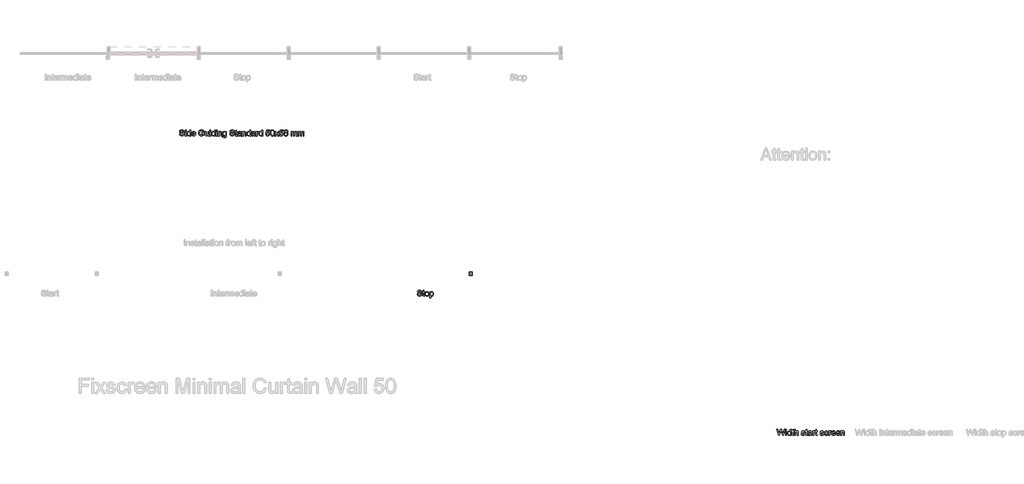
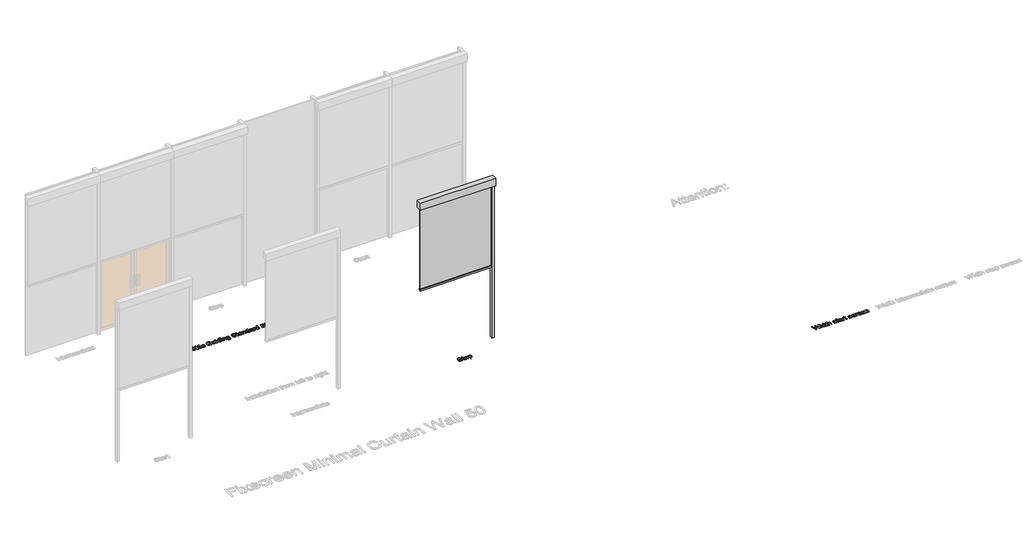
# One storey, part 4 of 8: 4 proxies.
"""IFC4 building model written with IfcOpenShell, lengths in millimetres."""

from ifc_helpers import new_model, si_unit, origin, origin_with_axes, place, context, project, spatial, polyline, outline, extrude, transform, mapped, element, save
from components import generic_models_59065b77

model = new_model("IFC4")

# Units and contexts
model_context = context("Model", 3, world=origin())
ifc_project = project(units=[si_unit("LENGTHUNIT", "METRE", prefix="MILLI")], contexts=[model_context])

# Site, building, storey
site = spatial("IfcSite", under=ifc_project)
building = spatial("IfcBuilding", under=site)
storey = spatial("IfcBuildingStorey", under=building, Name="Fixscreen Mini CW50 Overview Top", Elevation=0.0)

# Proxies
placement = place(None, origin())
generic_models_shape = generic_models_59065b77(model_context)
element("IfcBuildingElementProxy", 1, Name="Renson_Fixscreen_Minimal_CW50_End : For curtain wall - End element - Access downwards - Fabric close to the window", ObjectType="Renson_Fixscreen_Minimal_CW50_End : For curtain wall - End element - Access downwards - Fabric close to the window", at=placement, inside=storey, context=model_context, shape_type="MappedRepresentation", body=[
    mapped(generic_models_shape, transform((-885.8940169, -2499.9217625, 0.0), x_axis=(1.0, 0.0, 0.0), y_axis=(0.0, 1.0, 0.0), z_axis=(0.0, 0.0, 1.0))),
])
element("IfcBuildingElementProxy", 2, Name="100mm Arial", ObjectType="100mm Arial", at=placement, inside=storey, context=model_context, shape_type="SweptSolid", body=[
    extrude(outline(polyline([(-5228.2813123, -891.0386205), (-5215.7242735, -891.0386205), (-5211.6775716, -903.607922), (-5201.7938086, -911.5541731), (-5186.7351723, -914.5830682), (-5173.6140478, -912.2899371), (-5165.1404992, -905.9868923), (-5162.3568588, -897.5623946), (-5164.4415234, -889.7265081), (-5172.9763857, -884.0243372), (-5191.2601208, -879.2296085), (-5210.9418076, -873.0369282), (-5221.6226482, -863.6927256), (-5225.1420526, -851.2092632), (-5220.7887823, -836.9967554), (-5208.072328, -826.9658397), (-5189.4574991, -823.5445372), (-5169.5918713, -827.1252552), (-5156.3481195, -837.6466803), (-5151.3694498, -853.3675042), (-5163.9264886, -853.3675042), (-5166.2318824, -845.8749743), (-5171.0388738, -840.4671089), (-5188.9669897, -836.1015759), (-5206.9441566, -840.418058), (-5212.5850138, -850.8413812), (-5208.5873628, -859.5479217), (-5188.084073, -866.5622051), (-5165.8640004, -872.86525), (-5153.7116319, -883.0433185), (-5149.79982, -897.2435635), (-5154.3002431, -912.2654117), (-5167.2496893, -923.2282951), (-5186.244663, -927.140107), (-5208.673202, -922.9217268), (-5222.8611842, -910.2175352), (-5228.2813123, -891.0386205)])), origin_with_axes(), (0.0, 0.0, 1.0), 5.0),
    extrude(outline(polyline([(-5132.5338917, -925.5704771), (-5132.5338917, -851.7978744), (-5119.9768529, -851.7978744), (-5119.9768529, -925.5704771), (-5132.5338917, -925.5704771)])), origin_with_axes(), (0.0, 0.0, 1.0), 5.0),
    extrude(outline(polyline([(-5132.5338917, -837.6712058), (-5132.5338917, -825.114167), (-5119.9768529, -825.114167), (-5119.9768529, -837.6712058), (-5132.5338917, -837.6712058)])), origin_with_axes(), (0.0, 0.0, 1.0), 5.0),
    extrude(outline(polyline([(-5055.6220292, -925.5704771), (-5055.6220292, -913.7246769), (-5063.9300309, -923.7862495), (-5075.4140806, -927.140107), (-5090.9632262, -922.2840647), (-5101.9506352, -908.7337445), (-5105.8501843, -888.7577522), (-5102.2572035, -868.7694971), (-5091.4905238, -855.0107105), (-5075.4631315, -850.2282445), (-5063.8871114, -853.6495471), (-5055.6220292, -862.5400286), (-5055.6220292, -825.114167), (-5043.0649905, -825.114167), (-5043.0649905, -925.5704771), (-5055.6220292, -925.5704771)]), holes=[polyline([(-5093.2931455, -888.7087012), (-5091.8767998, -900.0670578), (-5087.6277628, -908.1451333), (-5081.4534767, -912.9735845), (-5074.2613836, -914.5830682), (-5067.0723563, -913.0471609), (-5061.05442, -908.4394389), (-5056.9801269, -900.6740631), (-5055.6220292, -889.6651944), (-5057.0046524, -877.6293218), (-5061.1525219, -869.2845319), (-5067.3237424, -864.4100955), (-5074.7764184, -862.7852833), (-5082.0420878, -864.3457161), (-5087.9956448, -869.0270145), (-5091.9687703, -877.0683018), (-5093.2931455, -888.7087012)])]), origin_with_axes(), (0.0, 0.0, 1.0), 5.0),
    extrude(outline(polyline([(-4972.5788002, -903.5956593), (-4960.2670161, -905.1652892), (-4964.7030598, -914.4420468), (-4971.7817225, -921.3766224), (-4981.3435887, -925.6992358), (-4993.2292428, -927.140107), (-5007.9629167, -924.6538378), (-5019.2998136, -917.1950304), (-5026.5286948, -905.2480626), (-5028.9383218, -889.2973124), (-5026.5041693, -872.8100677), (-5019.2017117, -860.4798895), (-5008.018099, -852.7911558), (-4993.9404814, -850.2282445), (-4980.3012564, -852.7850244), (-4969.4027523, -860.455364), (-4962.2566445, -872.7610167), (-4959.8746086, -889.223736), (-4959.948185, -892.6082504), (-5016.3812831, -892.6082504), (-5014.2077136, -902.0076354), (-5009.1585332, -908.9176855), (-5001.871404, -913.1667225), (-4992.9839882, -914.5830682), (-4980.6722041, -911.9588433), (-4972.5788002, -903.5956593)]), holes=[polyline([(-5016.3812831, -880.0512116), (-4972.4316474, -880.0512116), (-4977.459368, -868.6713952), (-4984.7802197, -864.2568113), (-4993.9895323, -862.7852833), (-5009.4528388, -867.4819101), (-5014.3180782, -872.9725489), (-5016.3812831, -880.0512116)])]), origin_with_axes(), (0.0, 0.0, 1.0), 5.0),
    extrude(outline(polyline([(-4859.4182985, -886.329731), (-4859.4182985, -873.7726922), (-4818.6079225, -873.7726922), (-4818.6079225, -911.3211812), (-4838.7555931, -923.1669814), (-4860.0559606, -927.140107), (-4874.1427753, -925.5612801), (-4886.874558, -920.8247994), (-4897.4511654, -913.0962118), (-4905.0724541, -902.5410643), (-4909.6801761, -889.8797923), (-4911.2160834, -875.8328314), (-4909.6863074, -861.684703), (-4905.0969795, -848.5237246), (-4897.6381721, -837.4841991), (-4887.4999574, -829.7004292), (-4875.1513851, -825.0835102), (-4861.0615047, -823.5445372), (-4841.4166062, -827.1129925), (-4827.6455568, -837.0458064), (-4820.054925, -853.6618098), (-4831.6309451, -856.9236968), (-4837.3576415, -845.3108885), (-4847.1433026, -838.6154362), (-4861.2577084, -836.1015759), (-4877.3341516, -838.81164), (-4888.2725096, -845.9240252), (-4894.73497, -855.5993217), (-4898.6590446, -875.3177966), (-4893.9378923, -897.2067753), (-4880.2036312, -910.3033744), (-4861.0615047, -914.5830682), (-4843.8814155, -911.3579694), (-4831.1649612, -904.4785761), (-4831.1649612, -886.329731), (-4859.4182985, -886.329731)])), origin_with_axes(), (0.0, 0.0, 1.0), 5.0),
    extrude(outline(polyline([(-4752.6834689, -925.5704771), (-4752.6834689, -912.890811), (-4762.5181809, -923.577783), (-4775.3449998, -927.140107), (-4787.1540119, -924.6385094), (-4795.2964667, -918.35999), (-4799.0366003, -909.1138892), (-4799.7723643, -897.4397673), (-4799.7723643, -851.7978744), (-4787.2153255, -851.7978744), (-4787.2153255, -891.5291299), (-4786.4550361, -904.3314233), (-4781.4886292, -911.8484787), (-4772.1321637, -914.5830682), (-4761.6475269, -911.7871651), (-4754.7190826, -904.1720078), (-4752.6834689, -890.1802292), (-4752.6834689, -851.7978744), (-4740.1264302, -851.7978744), (-4740.1264302, -925.5704771), (-4752.6834689, -925.5704771)])), origin_with_axes(), (0.0, 0.0, 1.0), 5.0),
    extrude(outline(polyline([(-4722.8605019, -837.6712058), (-4722.8605019, -825.114167), (-4710.3034631, -825.114167), (-4710.3034631, -837.6712058), (-4722.8605019, -837.6712058)])), origin_with_axes(), (0.0, 0.0, 1.0), 5.0),
    extrude(outline(polyline([(-4722.8605019, -925.5704771), (-4722.8605019, -851.7978744), (-4710.3034631, -851.7978744), (-4710.3034631, -925.5704771), (-4722.8605019, -925.5704771)])), origin_with_axes(), (0.0, 0.0, 1.0), 5.0),
    extrude(outline(polyline([(-4645.9486394, -925.5704771), (-4645.9486394, -913.7246769), (-4654.2566411, -923.7862495), (-4665.7406907, -927.140107), (-4681.2898364, -922.2840647), (-4692.2772453, -908.7337445), (-4696.1767945, -888.7577522), (-4692.5838137, -868.7694971), (-4681.8171339, -855.0107105), (-4665.7897417, -850.2282445), (-4654.2137216, -853.6495471), (-4645.9486394, -862.5400286), (-4645.9486394, -825.114167), (-4633.3916006, -825.114167), (-4633.3916006, -925.5704771), (-4645.9486394, -925.5704771)]), holes=[polyline([(-4683.6197557, -888.7087012), (-4682.20341, -900.0670578), (-4677.954373, -908.1451333), (-4671.7800868, -912.9735845), (-4664.5879938, -914.5830682), (-4657.3989665, -913.0471609), (-4651.3810302, -908.4394389), (-4647.3067371, -900.6740631), (-4645.9486394, -889.6651944), (-4647.3312626, -877.6293218), (-4651.4791321, -869.2845319), (-4657.6503525, -864.4100955), (-4665.1030286, -862.7852833), (-4672.368698, -864.3457161), (-4678.322255, -869.0270145), (-4682.2953805, -877.0683018), (-4683.6197557, -888.7087012)])]), origin_with_axes(), (0.0, 0.0, 1.0), 5.0),
    extrude(outline(polyline([(-4614.5560425, -925.5704771), (-4614.5560425, -851.7978744), (-4601.9990037, -851.7978744), (-4601.9990037, -925.5704771), (-4614.5560425, -925.5704771)])), origin_with_axes(), (0.0, 0.0, 1.0), 5.0),
    extrude(outline(polyline([(-4614.5560425, -837.6712058), (-4614.5560425, -825.114167), (-4601.9990037, -825.114167), (-4601.9990037, -837.6712058), (-4614.5560425, -837.6712058)])), origin_with_axes(), (0.0, 0.0, 1.0), 5.0),
    extrude(outline(polyline([(-4583.1634456, -925.5704771), (-4583.1634456, -851.7978744), (-4570.6064068, -851.7978744), (-4570.6064068, -862.0985702), (-4561.0046867, -853.195826), (-4547.8958249, -850.2282445), (-4536.037762, -852.6194775), (-4527.9443581, -858.8979969), (-4524.179699, -868.131835), (-4523.5175114, -880.2719408), (-4523.5175114, -925.5704771), (-4536.0745502, -925.5704771), (-4536.0745502, -881.964198), (-4537.5215527, -870.8541617), (-4542.6351124, -864.9803125), (-4551.2558138, -862.7852833), (-4564.8797104, -867.714902), (-4569.1747327, -874.8579441), (-4570.6064068, -886.4278329), (-4570.6064068, -925.5704771), (-4583.1634456, -925.5704771)])), origin_with_axes(), (0.0, 0.0, 1.0), 5.0),
    extrude(outline(polyline([(-4509.3908428, -931.8489965), (-4496.833804, -933.4186264), (-4492.7625766, -940.0405023), (-4480.5734198, -942.8364055), (-4467.7220755, -939.6726203), (-4461.5907089, -930.7944015), (-4460.7323176, -916.1526981), (-4469.5737482, -923.2160324), (-4480.3526906, -925.5704771), (-4493.2990712, -922.8297563), (-4502.9529079, -914.6075937), (-4508.9585814, -902.553327), (-4510.9604726, -888.3162938), (-4507.3674918, -868.8553362), (-4496.9686941, -855.0842869), (-4480.9658273, -850.2282445), (-4469.7638205, -852.9750968), (-4460.7323176, -861.2156535), (-4460.7323176, -851.7978744), (-4448.1752788, -851.7978744), (-4448.1752788, -915.4905105), (-4451.6088441, -939.8810868), (-4462.4858884, -951.2241149), (-4480.8186745, -955.3934442), (-4492.5019935, -953.9249819), (-4501.7021091, -949.519595), (-4507.6035494, -942.1650208), (-4509.3908428, -931.8489965)]), holes=[polyline([(-4498.4034339, -887.4579024), (-4497.0637303, -898.9756746), (-4493.0446195, -906.8943345), (-4487.0021577, -911.4836624), (-4479.5924012, -913.0134384), (-4472.237827, -911.4928595), (-4466.1647084, -906.9311227), (-4462.0904153, -899.1136303), (-4460.7323176, -887.8257844), (-4462.1302691, -876.9395431), (-4466.3241239, -869.1005909), (-4472.4861473, -864.3641102), (-4479.7886049, -862.7852833), (-4486.9592381, -864.3395847), (-4492.9710431, -869.002489), (-4497.0453362, -876.7249452), (-4498.4034339, -887.4579024)])]), origin_with_axes(), (0.0, 0.0, 1.0), 5.0),
    extrude(outline(polyline([(-4393.2382342, -891.0386205), (-4380.6811954, -891.0386205), (-4376.6344935, -903.607922), (-4366.7507305, -911.5541731), (-4351.6920942, -914.5830682), (-4338.5709697, -912.2899371), (-4330.0974211, -905.9868923), (-4327.3137806, -897.5623946), (-4329.3984453, -889.7265081), (-4337.9333076, -884.0243372), (-4356.2170427, -879.2296085), (-4375.8987295, -873.0369282), (-4386.5795701, -863.6927256), (-4390.0989745, -851.2092632), (-4385.7457042, -836.9967554), (-4373.0292499, -826.9658397), (-4354.414421, -823.5445372), (-4334.5487932, -827.1252552), (-4321.3050414, -837.6466803), (-4316.3263717, -853.3675042), (-4328.8834105, -853.3675042), (-4331.1888043, -845.8749743), (-4335.9957957, -840.4671089), (-4353.9239116, -836.1015759), (-4371.9010785, -840.418058), (-4377.5419357, -850.8413812), (-4373.5442847, -859.5479217), (-4353.0409948, -866.5622051), (-4330.8209223, -872.86525), (-4318.6685538, -883.0433185), (-4314.7567419, -897.2435635), (-4319.2571649, -912.2654117), (-4332.2066112, -923.2282951), (-4351.2015849, -927.140107), (-4373.6301238, -922.9217268), (-4387.8181061, -910.2175352), (-4393.2382342, -891.0386205)])), origin_with_axes(), (0.0, 0.0, 1.0), 5.0),
    extrude(outline(polyline([(-4270.8071062, -915.098103), (-4269.2374763, -925.9383591), (-4278.6307299, -927.140107), (-4289.152155, -925.0554424), (-4294.4006048, -919.5862634), (-4295.9211837, -905.3369674), (-4295.9211837, -864.3549132), (-4305.3389628, -864.3549132), (-4305.3389628, -851.7978744), (-4295.9211837, -851.7978744), (-4295.9211837, -833.8697585), (-4283.3641449, -826.4875931), (-4283.3641449, -851.7978744), (-4270.8071062, -851.7978744), (-4270.8071062, -864.3549132), (-4283.3641449, -864.3549132), (-4283.3641449, -904.9690854), (-4282.7019574, -911.4438085), (-4280.5559791, -913.7369396), (-4276.2762852, -914.5830682), (-4270.8071062, -915.098103)])), origin_with_axes(), (0.0, 0.0, 1.0), 5.0),
    extrude(outline(polyline([(-4211.161172, -916.1526981), (-4223.3380661, -924.6630349), (-4236.7902844, -927.140107), (-4247.2841183, -925.6501849), (-4255.0249686, -921.1804187), (-4259.7982375, -914.3929959), (-4261.3893271, -905.9501041), (-4258.9858314, -896.0172902), (-4252.6705238, -888.8068031), (-4243.8781441, -884.6865248), (-4233.0133625, -882.7980638), (-4211.2347484, -878.4815818), (-4211.161172, -875.6856786), (-4214.6192628, -866.4150523), (-4228.5006767, -862.7852833), (-4241.2048683, -865.2010417), (-4247.2626585, -873.7726922), (-4259.8196973, -872.2030624), (-4254.3873065, -859.9403292), (-4243.4489485, -852.7543676), (-4226.881996, -850.2282445), (-4211.6639441, -852.460062), (-4203.0677681, -858.064131), (-4199.2172699, -866.5867306), (-4198.6041333, -877.5741395), (-4198.6041333, -893.1968616), (-4197.9664711, -915.0122639), (-4195.4648736, -925.5704771), (-4208.0219123, -925.5704771), (-4211.161172, -916.1526981)]), holes=[polyline([(-4211.161172, -891.0386205), (-4231.4192072, -894.8891188), (-4242.2226752, -896.9247325), (-4247.1155057, -900.2356704), (-4248.8322883, -905.0671873), (-4245.0921547, -911.8607415), (-4234.1170085, -914.5830682), (-4221.412817, -911.5786986), (-4213.2213112, -904.3068978), (-4211.2347484, -894.5948132), (-4211.161172, -891.0386205)])]), origin_with_axes(), (0.0, 0.0, 1.0), 5.0),
    extrude(outline(polyline([(-4181.338205, -925.5704771), (-4181.338205, -851.7978744), (-4168.7811662, -851.7978744), (-4168.7811662, -862.0985702), (-4159.1794461, -853.195826), (-4146.0705843, -850.2282445), (-4134.2125214, -852.6194775), (-4126.1191175, -858.8979969), (-4122.3544584, -868.131835), (-4121.6922708, -880.2719408), (-4121.6922708, -925.5704771), (-4134.2493096, -925.5704771), (-4134.2493096, -881.964198), (-4135.6963121, -870.8541617), (-4140.8098718, -864.9803125), (-4149.4305732, -862.7852833), (-4163.0544698, -867.714902), (-4167.3494921, -874.8579441), (-4168.7811662, -886.4278329), (-4168.7811662, -925.5704771), (-4181.338205, -925.5704771)])), origin_with_axes(), (0.0, 0.0, 1.0), 5.0),
    extrude(outline(polyline([(-4058.907077, -925.5704771), (-4058.907077, -913.7246769), (-4067.2150787, -923.7862495), (-4078.6991283, -927.140107), (-4094.248274, -922.2840647), (-4105.2356829, -908.7337445), (-4109.135232, -888.7577522), (-4105.5422512, -868.7694971), (-4094.7755715, -855.0107105), (-4078.7481792, -850.2282445), (-4067.1721591, -853.6495471), (-4058.907077, -862.5400286), (-4058.907077, -825.114167), (-4046.3500382, -825.114167), (-4046.3500382, -925.5704771), (-4058.907077, -925.5704771)]), holes=[polyline([(-4096.5781933, -888.7087012), (-4095.1618476, -900.0670578), (-4090.9128105, -908.1451333), (-4084.7385244, -912.9735845), (-4077.5464314, -914.5830682), (-4070.3574041, -913.0471609), (-4064.3394678, -908.4394389), (-4060.2651747, -900.6740631), (-4058.907077, -889.6651944), (-4060.2897001, -877.6293218), (-4064.4375696, -869.2845319), (-4070.6087901, -864.4100955), (-4078.0614662, -862.7852833), (-4085.3271356, -864.3457161), (-4091.2806925, -869.0270145), (-4095.2538181, -877.0683018), (-4096.5781933, -888.7087012)])]), origin_with_axes(), (0.0, 0.0, 1.0), 5.0),
    extrude(outline(polyline([(-3980.4255847, -916.1526981), (-3992.6024787, -924.6630349), (-4006.054697, -927.140107), (-4016.5485309, -925.6501849), (-4024.2893812, -921.1804187), (-4029.0626501, -914.3929959), (-4030.6537397, -905.9501041), (-4028.250244, -896.0172902), (-4021.9349364, -888.8068031), (-4013.1425568, -884.6865248), (-4002.2777752, -882.7980638), (-3980.4991611, -878.4815818), (-3980.4255847, -875.6856786), (-3983.8836754, -866.4150523), (-3997.7650894, -862.7852833), (-4010.4692809, -865.2010417), (-4016.5270711, -873.7726922), (-4029.0841099, -872.2030624), (-4023.6517191, -859.9403292), (-4012.7133611, -852.7543676), (-3996.1464086, -850.2282445), (-3980.9283567, -852.460062), (-3972.3321808, -858.064131), (-3968.4816825, -866.5867306), (-3967.8685459, -877.5741395), (-3967.8685459, -893.1968616), (-3967.2308838, -915.0122639), (-3964.7292862, -925.5704771), (-3977.286325, -925.5704771), (-3980.4255847, -916.1526981)]), holes=[polyline([(-3980.4255847, -891.0386205), (-4000.6836199, -894.8891188), (-4011.4870878, -896.9247325), (-4016.3799183, -900.2356704), (-4018.096701, -905.0671873), (-4014.3565673, -911.8607415), (-4003.3814212, -914.5830682), (-3990.6772296, -911.5786986), (-3982.4857238, -904.3068978), (-3980.4991611, -894.5948132), (-3980.4255847, -891.0386205)])]), origin_with_axes(), (0.0, 0.0, 1.0), 5.0),
    extrude(outline(polyline([(-3950.6026176, -925.5704771), (-3950.6026176, -851.7978744), (-3939.6152087, -851.7978744), (-3939.6152087, -862.7117069), (-3931.8161104, -852.6562657), (-3923.9679611, -850.2282445), (-3911.3618714, -854.1032682), (-3915.5557262, -865.3604573), (-3924.3848941, -862.7852833), (-3931.4850166, -865.2623554), (-3936.0099651, -872.129486), (-3938.0455788, -886.7957149), (-3938.0455788, -925.5704771), (-3950.6026176, -925.5704771)])), origin_with_axes(), (0.0, 0.0, 1.0), 5.0),
    extrude(outline(polyline([(-3857.9944567, -925.5704771), (-3857.9944567, -913.7246769), (-3866.3024584, -923.7862495), (-3877.786508, -927.140107), (-3893.3356537, -922.2840647), (-3904.3230626, -908.7337445), (-3908.2226117, -888.7577522), (-3904.6296309, -868.7694971), (-3893.8629512, -855.0107105), (-3877.8355589, -850.2282445), (-3866.2595388, -853.6495471), (-3857.9944567, -862.5400286), (-3857.9944567, -825.114167), (-3845.4374179, -825.114167), (-3845.4374179, -925.5704771), (-3857.9944567, -925.5704771)]), holes=[polyline([(-3895.665573, -888.7087012), (-3894.2492273, -900.0670578), (-3890.0001902, -908.1451333), (-3883.8259041, -912.9735845), (-3876.6338111, -914.5830682), (-3869.4447838, -913.0471609), (-3863.4268475, -908.4394389), (-3859.3525544, -900.6740631), (-3857.9944567, -889.6651944), (-3859.3770798, -877.6293218), (-3863.5249493, -869.2845319), (-3869.6961698, -864.4100955), (-3877.1488459, -862.7852833), (-3884.4145153, -864.3457161), (-3890.3680722, -869.0270145), (-3894.3411978, -877.0683018), (-3895.665573, -888.7087012)])]), origin_with_axes(), (0.0, 0.0, 1.0), 5.0),
    extrude(outline(polyline([(-3790.5003733, -898.8867698), (-3777.9433345, -897.3171399), (-3771.6157642, -910.2543234), (-3758.4946397, -914.5830682), (-3749.4937935, -913.0778177), (-3742.7492903, -908.5620662), (-3738.5370415, -901.5569799), (-3737.1329585, -892.5837249), (-3742.393671, -877.6722414), (-3749.0002185, -873.5703571), (-3758.298436, -872.2030624), (-3769.3226331, -874.3858289), (-3776.3737047, -880.0512116), (-3788.9307434, -878.4815818), (-3777.9433345, -826.6837968), (-3729.2848093, -826.6837968), (-3729.2848093, -839.2408356), (-3767.7897914, -839.2408356), (-3773.1608686, -866.9055617), (-3764.1906793, -861.4609081), (-3754.7912943, -859.6460236), (-3743.0589243, -861.8962352), (-3733.3192485, -868.6468698), (-3726.7617519, -878.9353029), (-3724.5759197, -891.79891), (-3726.5440884, -904.3559488), (-3732.4485944, -915.098103), (-3743.7548344, -924.129606), (-3758.5436906, -927.140107), (-3770.8769345, -925.2056608), (-3780.7024495, -919.4023224), (-3787.4377557, -910.4045419), (-3790.5003733, -898.8867698)])), origin_with_axes(), (0.0, 0.0, 1.0), 5.0),
    extrude(outline(polyline([(-3713.5885108, -876.1516625), (-3709.8974281, -847.2484004), (-3698.9345447, -830.583346), (-3680.6262841, -825.114167), (-3665.9600552, -828.3515286), (-3655.8310376, -837.6834685), (-3649.9449257, -852.5459011), (-3647.6640573, -876.1516625), (-3651.3183518, -904.9322972), (-3662.244447, -921.6341398), (-3670.4758067, -925.7636152), (-3680.6262841, -927.140107), (-3693.6738321, -924.748874), (-3703.5821206, -917.5751751), (-3711.0869133, -900.5851583), (-3713.5885108, -876.1516625)]), holes=[polyline([(-3701.0314721, -876.127137), (-3699.5599441, -895.8793345), (-3695.1453601, -907.3112675), (-3688.5725351, -912.765118), (-3680.6262841, -914.5830682), (-3672.680033, -912.7589867), (-3666.107208, -907.286742), (-3661.692624, -895.8486776), (-3660.2210961, -876.127137), (-3661.6435731, -856.8194636), (-3665.9110042, -845.2986258), (-3672.4715665, -839.5780608), (-3680.7734368, -837.6712058), (-3688.6338488, -839.3512002), (-3694.9491564, -844.3911835), (-3699.5108931, -856.6293913), (-3701.0314721, -876.127137)])]), origin_with_axes(), (0.0, 0.0, 1.0), 5.0),
    extrude(outline(polyline([(-3641.3855379, -925.5704771), (-3614.5546777, -888.487972), (-3639.8159081, -851.7978744), (-3624.7082208, -851.7978744), (-3612.519064, -869.4562102), (-3606.8291558, -877.7948687), (-3601.8995371, -870.9767891), (-3588.0181231, -851.7978744), (-3572.9104359, -851.7978744), (-3599.4469904, -888.487972), (-3573.8914545, -925.5704771), (-3588.9991418, -925.5704771), (-3604.3766092, -903.2768282), (-3607.1970378, -899.2056008), (-3626.2778506, -925.5704771), (-3641.3855379, -925.5704771)])), origin_with_axes(), (0.0, 0.0, 1.0), 5.0),
    extrude(outline(polyline([(-3566.0433053, -898.8867698), (-3553.4862665, -897.3171399), (-3547.1586962, -910.2543234), (-3534.0375717, -914.5830682), (-3525.0367256, -913.0778177), (-3518.2922223, -908.5620662), (-3514.0799735, -901.5569799), (-3512.6758905, -892.5837249), (-3517.9366031, -877.6722414), (-3524.5431505, -873.5703571), (-3533.841368, -872.2030624), (-3544.8655651, -874.3858289), (-3551.9166367, -880.0512116), (-3564.4736754, -878.4815818), (-3553.4862665, -826.6837968), (-3504.8277413, -826.6837968), (-3504.8277413, -839.2408356), (-3543.3327235, -839.2408356), (-3548.7038006, -866.9055617), (-3539.7336113, -861.4609081), (-3530.3342263, -859.6460236), (-3518.6018563, -861.8962352), (-3508.8621805, -868.6468698), (-3502.3046839, -878.9353029), (-3500.1188518, -891.79891), (-3502.0870204, -904.3559488), (-3507.9915264, -915.098103), (-3519.2977664, -924.129606), (-3534.0866226, -927.140107), (-3546.4198665, -925.2056608), (-3556.2453815, -919.4023224), (-3562.9806877, -910.4045419), (-3566.0433053, -898.8867698)])), origin_with_axes(), (0.0, 0.0, 1.0), 5.0),
    extrude(outline(polyline([(-3470.8354449, -870.2410251), (-3482.276575, -862.4419268), (-3485.9921831, -850.3018209), (-3483.9688322, -840.485503), (-3477.8987792, -832.373705), (-3468.4626061, -826.9290515), (-3456.3408943, -825.114167), (-3444.1456062, -826.9719711), (-3434.5868057, -832.5453833), (-3428.4063882, -840.78594), (-3426.346249, -850.6451775), (-3430.0128062, -862.478715), (-3441.1351052, -870.2410251), (-3427.7809888, -880.0879998), (-3423.2069893, -896.3361213), (-3425.4755949, -908.341337), (-3432.2814118, -918.2618882), (-3442.7905742, -924.9205523), (-3456.1692161, -927.140107), (-3469.547858, -924.9113552), (-3480.0570203, -918.2251), (-3486.8628372, -908.2095127), (-3489.1314428, -895.9927647), (-3484.3735024, -879.3644986), (-3470.8354449, -870.2410251)]), holes=[polyline([(-3473.4351444, -850.6697029), (-3468.9837722, -860.5289404), (-3456.0220633, -864.3549132), (-3443.3178717, -860.5534659), (-3438.9032878, -851.2337887), (-3443.4650245, -841.5830177), (-3456.1692161, -837.6712058), (-3468.9101958, -841.4971785), (-3473.4351444, -850.6697029)]), polyline([(-3476.5744041, -895.5513063), (-3474.4774767, -905.0058736), (-3467.0585231, -912.0814707), (-3456.0711142, -914.5830682), (-3447.5239892, -913.2678901), (-3441.1105797, -909.3223557), (-3435.7640281, -895.9437138), (-3441.282258, -882.3075545), (-3447.8428202, -878.2608526), (-3456.4880471, -876.9119519), (-3464.9156105, -878.2424585), (-3471.2646406, -882.2339781), (-3476.5744041, -895.5513063)])]), origin_with_axes(), (0.0, 0.0, 1.0), 5.0),
    extrude(outline(polyline([(-3369.8395745, -925.5704771), (-3369.8395745, -851.7978744), (-3357.2825358, -851.7978744), (-3357.2825358, -863.9379802), (-3348.6495716, -853.9929036), (-3336.362313, -850.2282445), (-3323.7807487, -854.06648), (-3316.8645672, -864.820897), (-3307.0666434, -853.8764077), (-3294.6935456, -850.2282445), (-3285.2543068, -851.7457578), (-3278.2737459, -856.2982975), (-3273.9603295, -864.0084909), (-3272.5225241, -874.9989655), (-3272.5225241, -925.5704771), (-3285.0795628, -925.5704771), (-3285.0795628, -880.3945681), (-3286.2445225, -869.9099313), (-3290.4629027, -864.7473206), (-3297.6366016, -862.7852833), (-3309.9851739, -867.8130039), (-3313.6731909, -874.3551721), (-3314.9025299, -883.9262353), (-3314.9025299, -925.5704771), (-3327.4595687, -925.5704771), (-3327.4595687, -878.9966166), (-3330.3658364, -866.8319853), (-3339.8939801, -862.7852833), (-3349.1891319, -865.4830846), (-3355.3695494, -873.3802848), (-3357.2825358, -888.3653447), (-3357.2825358, -925.5704771), (-3369.8395745, -925.5704771)])), origin_with_axes(), (0.0, 0.0, 1.0), 5.0),
    extrude(outline(polyline([(-3253.6869659, -925.5704771), (-3253.6869659, -851.7978744), (-3241.1299271, -851.7978744), (-3241.1299271, -863.9379802), (-3232.496963, -853.9929036), (-3220.2097044, -850.2282445), (-3207.6281401, -854.06648), (-3200.7119586, -864.820897), (-3190.9140348, -853.8764077), (-3178.540937, -850.2282445), (-3169.1016982, -851.7457578), (-3162.1211373, -856.2982975), (-3157.8077209, -864.0084909), (-3156.3699155, -874.9989655), (-3156.3699155, -925.5704771), (-3168.9269542, -925.5704771), (-3168.9269542, -880.3945681), (-3170.0919139, -869.9099313), (-3174.3102941, -864.7473206), (-3181.483993, -862.7852833), (-3193.8325653, -867.8130039), (-3197.5205823, -874.3551721), (-3198.7499213, -883.9262353), (-3198.7499213, -925.5704771), (-3211.3069601, -925.5704771), (-3211.3069601, -878.9966166), (-3214.2132278, -866.8319853), (-3223.7413715, -862.7852833), (-3233.0365233, -865.4830846), (-3239.2169408, -873.3802848), (-3241.1299271, -888.3653447), (-3241.1299271, -925.5704771), (-3253.6869659, -925.5704771)])), origin_with_axes(), (0.0, 0.0, 1.0), 5.0),
])
element("IfcBuildingElementProxy", 3, Name="100mm Arial", ObjectType="100mm Arial", at=placement, inside=storey, context=model_context, shape_type="SweptSolid", body=[
    extrude(outline(polyline([(4744.2089221, -5915.7019445), (4716.8139762, -5815.2456344), (4729.7634225, -5815.2456344), (4745.6559247, -5881.2681898), (4750.5610179, -5901.6488523), (4755.8094677, -5883.6226345), (4775.7241464, -5815.2456344), (4794.3880263, -5815.2456344), (4808.8580514, -5864.8116019), (4819.6247312, -5901.6488523), (4824.3826716, -5881.856801), (4840.4223266, -5815.2456344), (4853.3717728, -5815.2456344), (4825.9523015, -5915.7019445), (4812.5368714, -5915.7019445), (4788.4528634, -5838.2014709), (4785.0928745, -5827.3857402), (4781.3159527, -5840.4087628), (4759.3656603, -5915.7019445), (4744.2089221, -5915.7019445)])), origin_with_axes(), (0.0, 0.0, 1.0), 5.0),
    extrude(outline(polyline([(4864.3591818, -5915.7019445), (4864.3591818, -5841.9293418), (4876.9162205, -5841.9293418), (4876.9162205, -5915.7019445), (4864.3591818, -5915.7019445)])), origin_with_axes(), (0.0, 0.0, 1.0), 5.0),
    extrude(outline(polyline([(4864.3591818, -5827.8026731), (4864.3591818, -5815.2456344), (4876.9162205, -5815.2456344), (4876.9162205, -5827.8026731), (4864.3591818, -5827.8026731)])), origin_with_axes(), (0.0, 0.0, 1.0), 5.0),
    extrude(outline(polyline([(4941.2710442, -5915.7019445), (4941.2710442, -5903.8561443), (4932.9630425, -5913.9177168), (4921.4789929, -5917.2715744), (4905.9298472, -5912.415532), (4894.9424383, -5898.8652119), (4891.0428891, -5878.8892195), (4894.63587, -5858.9009645), (4905.4025497, -5845.1421778), (4921.4299419, -5840.3597119), (4933.0059621, -5843.7810145), (4941.2710442, -5852.671496), (4941.2710442, -5815.2456344), (4953.828083, -5815.2456344), (4953.828083, -5915.7019445), (4941.2710442, -5915.7019445)]), holes=[polyline([(4903.5999279, -5878.8401686), (4905.0162736, -5890.1985252), (4909.2653106, -5898.2766007), (4915.4395968, -5903.1050519), (4922.6316898, -5904.7145356), (4929.8207171, -5903.1786283), (4935.8386534, -5898.5709063), (4939.9129465, -5890.8055305), (4941.2710442, -5879.7966618), (4939.8884211, -5867.7607892), (4935.7405516, -5859.4159993), (4929.5693311, -5854.5415628), (4922.116655, -5852.9167507), (4914.8509856, -5854.4771835), (4908.8974286, -5859.1584819), (4904.9243031, -5867.1997691), (4903.5999279, -5878.8401686)])]), origin_with_axes(), (0.0, 0.0, 1.0), 5.0),
    extrude(outline(polyline([(4999.3473485, -5905.2295704), (5000.9169784, -5916.0698265), (4991.5237248, -5917.2715744), (4981.0022997, -5915.1869097), (4975.7538499, -5909.7177307), (4974.233271, -5895.4684348), (4974.233271, -5854.4863805), (4964.8154919, -5854.4863805), (4964.8154919, -5841.9293418), (4974.233271, -5841.9293418), (4974.233271, -5824.0012259), (4986.7903098, -5816.6190605), (4986.7903098, -5841.9293418), (4999.3473485, -5841.9293418), (4999.3473485, -5854.4863805), (4986.7903098, -5854.4863805), (4986.7903098, -5895.1005528), (4987.4524974, -5901.5752759), (4989.5984757, -5903.868407), (4993.8781695, -5904.7145356), (4999.3473485, -5905.2295704)])), origin_with_axes(), (0.0, 0.0, 1.0), 5.0),
    extrude(outline(polyline([(5011.9043873, -5915.7019445), (5011.9043873, -5815.2456344), (5024.4614261, -5815.2456344), (5024.4614261, -5852.1809867), (5034.2532185, -5843.3150306), (5046.3136166, -5840.3597119), (5060.4157597, -5843.5848107), (5068.9751475, -5852.4998178), (5071.5503214, -5869.0054566), (5071.5503214, -5915.7019445), (5058.9932827, -5915.7019445), (5058.9932827, -5870.3053063), (5054.9956317, -5857.0615545), (5043.6648662, -5852.9167507), (5033.3764331, -5855.7126538), (5026.5093025, -5863.2910229), (5024.4614261, -5876.5102493), (5024.4614261, -5915.7019445), (5011.9043873, -5915.7019445)])), origin_with_axes(), (0.0, 0.0, 1.0), 5.0),
    extrude(outline(polyline([(5123.3481064, -5893.7271267), (5135.9051451, -5892.1574968), (5141.7176807, -5901.477174), (5155.0350089, -5904.7145356), (5167.8373023, -5901.7469542), (5172.0066316, -5894.7817217), (5167.8127769, -5889.1408645), (5154.8878561, -5885.5601464), (5135.9787215, -5879.4165171), (5127.7259021, -5872.2428182), (5124.9177362, -5862.1138006), (5127.1740791, -5852.7573351), (5133.3299712, -5845.6081617), (5141.3130105, -5841.8925536), (5152.1164784, -5840.3597119), (5167.3958439, -5842.8245213), (5177.1079286, -5849.4954481), (5181.4244107, -5860.7648999), (5168.8673719, -5862.3345298), (5164.1462196, -5855.4060855), (5153.097497, -5852.9167507), (5141.0800185, -5855.2957209), (5137.474775, -5860.8384763), (5138.9708284, -5864.4927708), (5143.6551925, -5867.2641485), (5154.4709232, -5869.9374243), (5172.9018111, -5875.8480617), (5181.4611989, -5882.543514), (5184.5636704, -5893.4573465), (5180.9216386, -5905.4748251), (5170.4124763, -5914.1936283), (5154.8633306, -5917.2715744), (5142.2020586, -5915.7877837), (5132.9620892, -5911.3364115), (5126.7939344, -5903.9665089), (5123.3481064, -5893.7271267)])), origin_with_axes(), (0.0, 0.0, 1.0), 5.0),
    extrude(outline(polyline([(5225.3740464, -5905.2295704), (5226.9436762, -5916.0698265), (5217.5504226, -5917.2715744), (5207.0289975, -5915.1869097), (5201.7805477, -5909.7177307), (5200.2599688, -5895.4684348), (5200.2599688, -5854.4863805), (5190.8421898, -5854.4863805), (5190.8421898, -5841.9293418), (5200.2599688, -5841.9293418), (5200.2599688, -5824.0012259), (5212.8170076, -5816.6190605), (5212.8170076, -5841.9293418), (5225.3740464, -5841.9293418), (5225.3740464, -5854.4863805), (5212.8170076, -5854.4863805), (5212.8170076, -5895.1005528), (5213.4791952, -5901.5752759), (5215.6251735, -5903.868407), (5219.9048674, -5904.7145356), (5225.3740464, -5905.2295704)])), origin_with_axes(), (0.0, 0.0, 1.0), 5.0),
    extrude(outline(polyline([(5285.0199805, -5906.2841654), (5272.8430865, -5914.7945023), (5259.3908682, -5917.2715744), (5248.8970343, -5915.7816523), (5241.156184, -5911.311886), (5236.3829151, -5904.5244632), (5234.7918254, -5896.0815714), (5237.1953211, -5886.1487576), (5243.5106287, -5878.9382705), (5252.3030084, -5874.8179921), (5263.16779, -5872.9295312), (5284.9464041, -5868.6130491), (5285.0199805, -5865.817146), (5281.5618898, -5856.5465197), (5267.6804758, -5852.9167507), (5254.9762842, -5855.3325091), (5248.9184941, -5863.9041596), (5236.3614553, -5862.3345298), (5241.7938461, -5850.0717966), (5252.7322041, -5842.8858349), (5269.2991566, -5840.3597119), (5284.5172085, -5842.5915293), (5293.1133844, -5848.1955984), (5296.9638826, -5856.718198), (5297.5770193, -5867.7056069), (5297.5770193, -5883.3283289), (5298.2146814, -5905.1437313), (5300.716279, -5915.7019445), (5288.1592402, -5915.7019445), (5285.0199805, -5906.2841654)]), holes=[polyline([(5285.0199805, -5881.1700879), (5264.7619453, -5885.0205861), (5253.9584774, -5887.0561998), (5249.0656469, -5890.3671378), (5247.3488642, -5895.1986547), (5251.0889978, -5901.9922088), (5262.064144, -5904.7145356), (5274.7683356, -5901.710166), (5282.9598413, -5894.4383652), (5284.9464041, -5884.7262805), (5285.0199805, -5881.1700879)])]), origin_with_axes(), (0.0, 0.0, 1.0), 5.0),
    extrude(outline(polyline([(5314.8429476, -5915.7019445), (5314.8429476, -5841.9293418), (5325.8303565, -5841.9293418), (5325.8303565, -5852.8431743), (5333.6294548, -5842.7877331), (5341.477604, -5840.3597119), (5354.0836937, -5844.2347356), (5349.889839, -5855.4919246), (5341.0606711, -5852.9167507), (5333.9605486, -5855.3938228), (5329.4356001, -5862.2609534), (5327.3999864, -5876.9271822), (5327.3999864, -5915.7019445), (5314.8429476, -5915.7019445)])), origin_with_axes(), (0.0, 0.0, 1.0), 5.0),
    extrude(outline(polyline([(5388.6155504, -5905.2295704), (5390.1851802, -5916.0698265), (5380.7919266, -5917.2715744), (5370.2705015, -5915.1869097), (5365.0220517, -5909.7177307), (5363.5014728, -5895.4684348), (5363.5014728, -5854.4863805), (5354.0836937, -5854.4863805), (5354.0836937, -5841.9293418), (5363.5014728, -5841.9293418), (5363.5014728, -5824.0012259), (5376.0585116, -5816.6190605), (5376.0585116, -5841.9293418), (5388.6155504, -5841.9293418), (5388.6155504, -5854.4863805), (5376.0585116, -5854.4863805), (5376.0585116, -5895.1005528), (5376.7206992, -5901.5752759), (5378.8666775, -5903.868407), (5383.1463714, -5904.7145356), (5388.6155504, -5905.2295704)])), origin_with_axes(), (0.0, 0.0, 1.0), 5.0),
    extrude(outline(polyline([(5435.7044457, -5893.7271267), (5448.2614845, -5892.1574968), (5454.07402, -5901.477174), (5467.3913483, -5904.7145356), (5480.1936417, -5901.7469542), (5484.362971, -5894.7817217), (5480.1691162, -5889.1408645), (5467.2441955, -5885.5601464), (5448.3350609, -5879.4165171), (5440.0822415, -5872.2428182), (5437.2740756, -5862.1138006), (5439.5304185, -5852.7573351), (5445.6863105, -5845.6081617), (5453.6693498, -5841.8925536), (5464.4728178, -5840.3597119), (5479.7521833, -5842.8245213), (5489.464268, -5849.4954481), (5493.78075, -5860.7648999), (5481.2237113, -5862.3345298), (5476.502559, -5855.4060855), (5465.4538364, -5852.9167507), (5453.4363579, -5855.2957209), (5449.8311144, -5860.8384763), (5451.3271678, -5864.4927708), (5456.0115319, -5867.2641485), (5466.8272625, -5869.9374243), (5485.2581505, -5875.8480617), (5493.8175382, -5882.543514), (5496.9200097, -5893.4573465), (5493.277978, -5905.4748251), (5482.7688157, -5914.1936283), (5467.21967, -5917.2715744), (5454.558398, -5915.7877837), (5445.3184285, -5911.3364115), (5439.1502738, -5903.9665089), (5435.7044457, -5893.7271267)])), origin_with_axes(), (0.0, 0.0, 1.0), 5.0),
    extrude(outline(polyline([(5558.1355737, -5889.0182371), (5570.6926125, -5890.587867), (5567.1916022, -5901.7561512), (5560.6126458, -5910.1959773), (5551.5750115, -5915.5026751), (5540.6979672, -5917.2715744), (5527.3407851, -5914.8036993), (5516.8960021, -5907.4000742), (5510.1545645, -5895.3856613), (5507.9074187, -5879.0854233), (5511.7456541, -5858.2265141), (5523.4443016, -5844.8233468), (5540.5262889, -5840.3597119), (5551.1366188, -5841.8925536), (5559.6193644, -5846.4910785), (5565.7047458, -5853.9100321), (5569.1229827, -5863.9041596), (5556.5659439, -5865.4737894), (5550.7411456, -5856.0682731), (5540.6243908, -5852.9167507), (5532.5095271, -5854.4679864), (5526.0685265, -5859.1216937), (5521.8654747, -5867.1292584), (5520.4644574, -5878.7420667), (5521.8348179, -5890.5112249), (5525.9458992, -5898.5463808), (5532.2704038, -5903.1724969), (5540.2810342, -5904.7145356), (5552.1145717, -5900.8640374), (5558.1355737, -5889.0182371)])), origin_with_axes(), (0.0, 0.0, 1.0), 5.0),
    extrude(outline(polyline([(5581.6800214, -5915.7019445), (5581.6800214, -5841.9293418), (5592.6674303, -5841.9293418), (5592.6674303, -5852.8431743), (5600.4665286, -5842.7877331), (5608.3146779, -5840.3597119), (5620.9207676, -5844.2347356), (5616.7269128, -5855.4919246), (5607.8977449, -5852.9167507), (5600.7976224, -5855.3938228), (5596.2726739, -5862.2609534), (5594.2370602, -5876.9271822), (5594.2370602, -5915.7019445), (5581.6800214, -5915.7019445)])), origin_with_axes(), (0.0, 0.0, 1.0), 5.0),
    extrude(outline(polyline([(5680.4195489, -5893.7271267), (5692.731333, -5895.2967565), (5688.2952893, -5904.5735142), (5681.2166266, -5911.5080898), (5671.6547604, -5915.8307032), (5659.7691063, -5917.2715744), (5645.0354324, -5914.7853052), (5633.6985355, -5907.3264978), (5626.4696543, -5895.37953), (5624.0600273, -5879.4287798), (5626.4941798, -5862.941535), (5633.7966374, -5850.6113568), (5644.9802501, -5842.9226231), (5659.0578677, -5840.3597119), (5672.6970927, -5842.9164918), (5683.5955968, -5850.5868314), (5690.7417046, -5862.8924841), (5693.1237405, -5879.3552034), (5693.0501641, -5882.7397178), (5636.617066, -5882.7397178), (5638.7906355, -5892.1391027), (5643.8398159, -5899.0491529), (5651.1269451, -5903.2981899), (5660.0143609, -5904.7145356), (5672.326145, -5902.0903107), (5680.4195489, -5893.7271267)]), holes=[polyline([(5636.617066, -5870.182679), (5680.5667017, -5870.182679), (5675.5389811, -5858.8028626), (5668.2181294, -5854.3882787), (5659.0088168, -5852.9167507), (5643.5455103, -5857.6133775), (5638.6802709, -5863.1040163), (5636.617066, -5870.182679)])]), origin_with_axes(), (0.0, 0.0, 1.0), 5.0),
    extrude(outline(polyline([(5757.3314114, -5893.7271267), (5769.6431955, -5895.2967565), (5765.2071518, -5904.5735142), (5758.128489, -5911.5080898), (5748.5666229, -5915.8307032), (5736.6809687, -5917.2715744), (5721.9472948, -5914.7853052), (5710.610398, -5907.3264978), (5703.3815168, -5895.37953), (5700.9718897, -5879.4287798), (5703.4060423, -5862.941535), (5710.7084999, -5850.6113568), (5721.8921125, -5842.9226231), (5735.9697302, -5840.3597119), (5749.6089552, -5842.9164918), (5760.5074593, -5850.5868314), (5767.653567, -5862.8924841), (5770.035603, -5879.3552034), (5769.9620266, -5882.7397178), (5713.5289285, -5882.7397178), (5715.702498, -5892.1391027), (5720.7516783, -5899.0491529), (5728.0388075, -5903.2981899), (5736.9262234, -5904.7145356), (5749.2380075, -5902.0903107), (5757.3314114, -5893.7271267)]), holes=[polyline([(5713.5289285, -5870.182679), (5757.4785642, -5870.182679), (5752.4508436, -5858.8028626), (5745.1299919, -5854.3882787), (5735.9206793, -5852.9167507), (5720.4573727, -5857.6133775), (5715.5921334, -5863.1040163), (5713.5289285, -5870.182679)])]), origin_with_axes(), (0.0, 0.0, 1.0), 5.0),
    extrude(outline(polyline([(5782.5926417, -5915.7019445), (5782.5926417, -5841.9293418), (5795.1496805, -5841.9293418), (5795.1496805, -5852.2300376), (5804.7514006, -5843.3272933), (5817.8602623, -5840.3597119), (5829.7183253, -5842.7509449), (5837.8117292, -5849.0294643), (5841.5763883, -5858.2633023), (5842.2385759, -5870.4034082), (5842.2385759, -5915.7019445), (5829.6815371, -5915.7019445), (5829.6815371, -5872.0956654), (5828.2345346, -5860.9856291), (5823.1209749, -5855.1117799), (5814.5002734, -5852.9167507), (5800.8763769, -5857.8463694), (5796.5813546, -5864.9894115), (5795.1496805, -5876.5593002), (5795.1496805, -5915.7019445), (5782.5926417, -5915.7019445)])), origin_with_axes(), (0.0, 0.0, 1.0), 5.0),
])
element("IfcBuildingElementProxy", 4, Name="100mm Arial", ObjectType="100mm Arial", at=placement, inside=storey, context=model_context, shape_type="SweptSolid", body=[
    extrude(outline(polyline([(-1271.3451385, -3561.5189543), (-1258.7880997, -3561.5189543), (-1254.7413978, -3574.0882558), (-1244.8576349, -3582.0345069), (-1229.7989985, -3585.063402), (-1216.677874, -3582.7702709), (-1208.2043254, -3576.467226), (-1205.420685, -3568.0427284), (-1207.5053496, -3560.2068419), (-1216.0402119, -3554.5046709), (-1234.3239471, -3549.7099423), (-1254.0056338, -3543.517262), (-1264.6864744, -3534.1730593), (-1268.2058788, -3521.689597), (-1263.8526085, -3507.4770892), (-1251.1361542, -3497.4461735), (-1232.5213253, -3494.0248709), (-1212.6556975, -3497.605589), (-1199.4119457, -3508.1270141), (-1194.4332761, -3523.847838), (-1206.9903148, -3523.847838), (-1209.2957087, -3516.355308), (-1214.1027001, -3510.9474427), (-1232.030816, -3506.5819097), (-1250.0079828, -3510.8983918), (-1255.64884, -3521.321715), (-1251.651189, -3530.0282555), (-1231.1478992, -3537.0425389), (-1208.9278267, -3543.3455837), (-1196.7754581, -3553.5236523), (-1192.8636462, -3567.7238973), (-1197.3640693, -3582.7457454), (-1210.3135155, -3593.7086289), (-1229.3084892, -3597.6204408), (-1251.7370282, -3593.4020606), (-1265.9250104, -3580.697869), (-1271.3451385, -3561.5189543)])), origin_with_axes(), (0.0, 0.0, 1.0), 5.0),
    extrude(outline(polyline([(-1148.9140105, -3585.5784368), (-1147.3443807, -3596.4186929), (-1156.7376343, -3597.6204408), (-1167.2590593, -3595.5357761), (-1172.5075091, -3590.0665971), (-1174.0280881, -3575.8173012), (-1174.0280881, -3534.8352469), (-1183.4458671, -3534.8352469), (-1183.4458671, -3522.2782082), (-1174.0280881, -3522.2782082), (-1174.0280881, -3504.3500923), (-1161.4710493, -3496.9679269), (-1161.4710493, -3522.2782082), (-1148.9140105, -3522.2782082), (-1148.9140105, -3534.8352469), (-1161.4710493, -3534.8352469), (-1161.4710493, -3575.4494192), (-1160.8088617, -3581.9241423), (-1158.6628834, -3584.2172734), (-1154.3831895, -3585.063402), (-1148.9140105, -3585.5784368)])), origin_with_axes(), (0.0, 0.0, 1.0), 5.0),
    extrude(outline(polyline([(-1139.4962314, -3559.1645095), (-1136.780036, -3541.3774151), (-1128.6314498, -3528.8755586), (-1118.5637459, -3522.7503234), (-1106.5094792, -3520.7085783), (-1093.317844, -3523.1948475), (-1082.7810905, -3530.6536549), (-1075.8741061, -3542.4963895), (-1073.5717779, -3558.1344399), (-1077.6430053, -3580.4771398), (-1089.5010683, -3593.1200177), (-1106.5094792, -3597.6204408), (-1119.8605299, -3595.1433687), (-1130.3850207, -3587.7121524), (-1137.2184288, -3575.6210975), (-1139.4962314, -3559.1645095)]), holes=[polyline([(-1126.9391927, -3559.1399841), (-1125.4860588, -3570.504472), (-1121.1266571, -3578.6009416), (-1114.5660949, -3583.4477869), (-1106.5094792, -3585.063402), (-1098.4896517, -3583.4385898), (-1091.9413522, -3578.5641534), (-1087.5819506, -3570.3603849), (-1086.1288167, -3558.7475766), (-1087.5911476, -3547.7141824), (-1091.9781404, -3539.7280775), (-1098.535637, -3534.8812322), (-1106.5094792, -3533.2656171), (-1114.5660949, -3534.8751008), (-1121.1266571, -3539.703552), (-1125.4860588, -3547.7816275), (-1126.9391927, -3559.1399841)])]), origin_with_axes(), (0.0, 0.0, 1.0), 5.0),
    extrude(outline(polyline([(-1059.4451093, -3624.3041481), (-1059.4451093, -3522.2782082), (-1046.8880705, -3522.2782082), (-1046.8880705, -3534.5899923), (-1038.2060554, -3524.1789318), (-1026.4828825, -3520.7085783), (-1010.5658549, -3525.5646206), (-1000.1670571, -3539.2498309), (-996.6599154, -3558.6004238), (-1000.6207783, -3578.9442981), (-1012.123222, -3592.8011866), (-1028.0034614, -3597.6204408), (-1038.9295567, -3594.3953419), (-1046.8880705, -3586.2406244), (-1046.8880705, -3624.3041481), (-1059.4451093, -3624.3041481)]), holes=[polyline([(-1046.8880705, -3559.7531207), (-1045.5299728, -3571.0103098), (-1041.4556797, -3578.8829845), (-1035.4438748, -3583.5182976), (-1028.2732416, -3585.063402), (-1020.9861124, -3583.4631153), (-1014.8210233, -3578.6622553), (-1010.6179715, -3570.5014064), (-1009.2169542, -3558.821153), (-1010.584249, -3547.6252776), (-1014.6861332, -3539.6422383), (-1020.6887411, -3534.8597724), (-1027.7582068, -3533.2656171), (-1034.8552636, -3534.9609399), (-1041.0877977, -3540.0469085), (-1045.4380023, -3548.3641073), (-1046.8880705, -3559.7531207)])]), origin_with_axes(), (0.0, 0.0, 1.0), 5.0),
])

save(model, "model.ifc")
